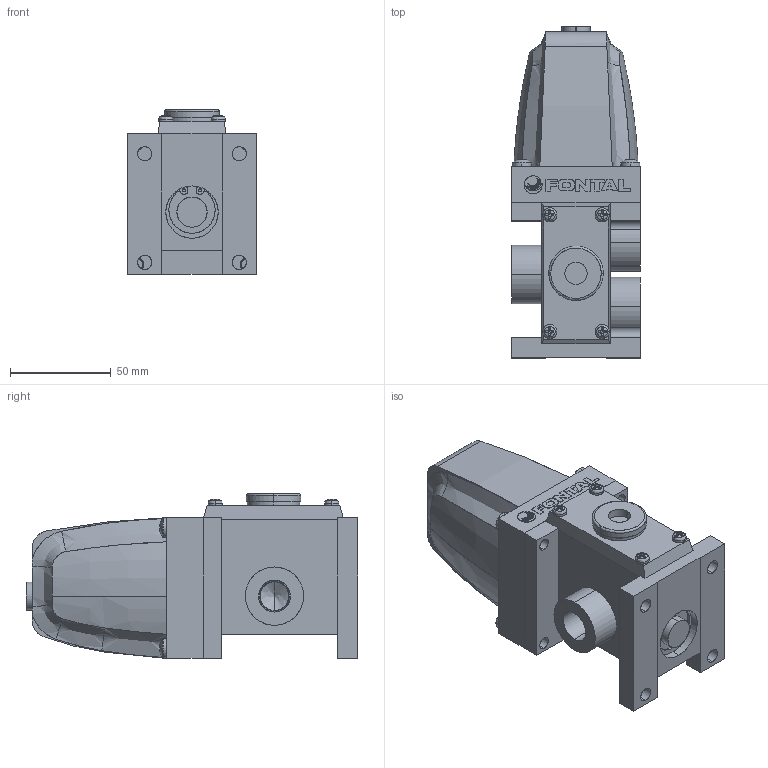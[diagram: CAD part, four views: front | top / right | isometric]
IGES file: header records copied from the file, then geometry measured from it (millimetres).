
Start section: SolidWorks IGES file using analytic representation for surfaces
Global section: file name: D:\Custom\3D繪製\A\A10\AS2310-03-##.IGS,1; native system: 5HSolidWorks 2014; preprocessor: SolidWorks 2014; author: Chieh_Lu; date: 151223.134709; units: millimetre
Bounding box: 64 x 165 x 82 mm (x, y, z)
Surface area: 75922.1 mm2 (no closed solid volume)
Topology: 0 solids, 0 shells, 551 faces, 6651 edges, 6629 vertices
Faces by surface type: bspline 333, revolution 218
